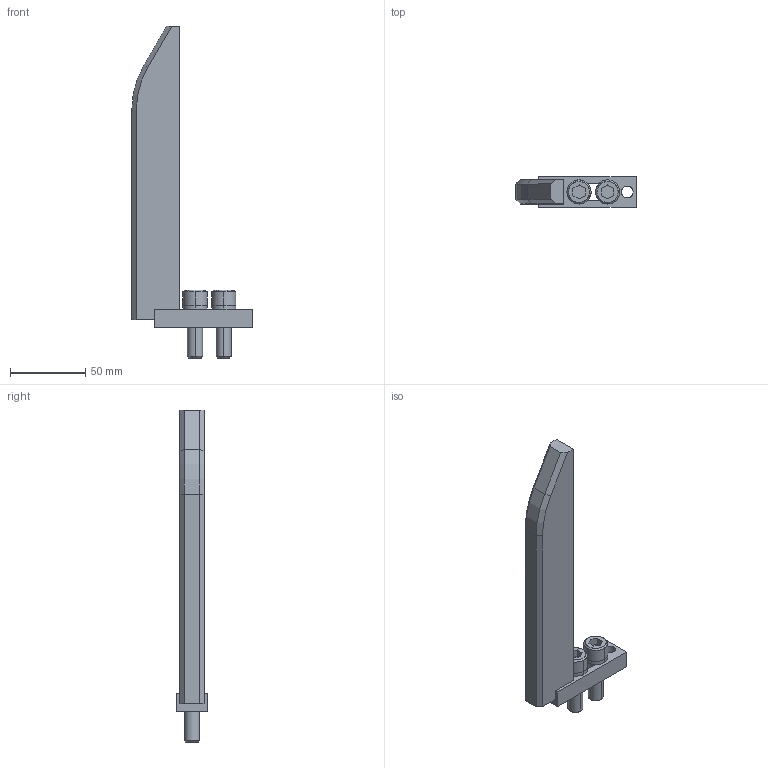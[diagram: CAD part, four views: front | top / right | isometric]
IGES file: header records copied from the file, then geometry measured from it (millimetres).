
Global section: file name: E:\UnigraphicsGraphicData\MISUMI_PRESS-PARTS\IGES\3d_enstd200-40-m10_01450_r00.igs; native system: NX V5.0; preprocessor: UGS NX IGES V5.0; author: MISUMI; date: 20110105.160629; units: millimetre
Bounding box: 80 x 20 x 220.5 mm (x, y, z)
Surface area: 26942.8 mm2 (no closed solid volume)
Topology: 0 solids, 0 shells, 74 faces, 457 edges, 457 vertices
Faces by surface type: bspline 74
